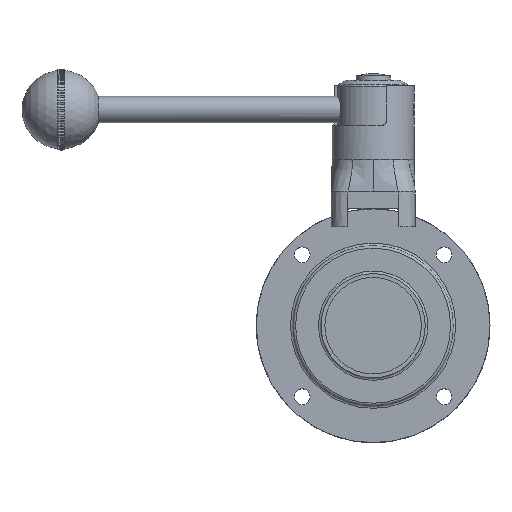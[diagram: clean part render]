
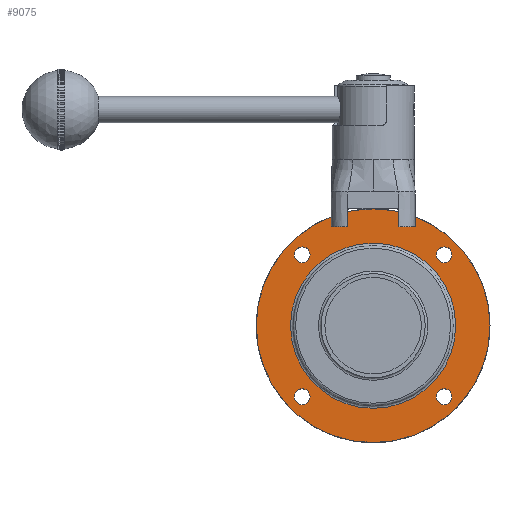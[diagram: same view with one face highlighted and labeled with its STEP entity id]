
A CAD part, top view. The second image highlights one B-rep face of the part: STEP entity #9075.
In plain terms, the highlighted planar face has unit normal (0, 0, 1) as drawn and (1, 0, 0) by its records, which use the part's own axes.
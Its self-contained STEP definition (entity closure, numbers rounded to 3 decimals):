
#833=FACE_BOUND('',#2447,.T.);
#834=FACE_BOUND('',#2448,.T.);
#835=FACE_BOUND('',#2449,.T.);
#836=FACE_BOUND('',#2450,.T.);
#837=FACE_BOUND('',#2451,.T.);
#1184=PLANE('',#10211);
#1829=FACE_OUTER_BOUND('',#2446,.T.);
#2446=EDGE_LOOP('',(#8514));
#2447=EDGE_LOOP('',(#8515));
#2448=EDGE_LOOP('',(#8516));
#2449=EDGE_LOOP('',(#8517));
#2450=EDGE_LOOP('',(#8518));
#2451=EDGE_LOOP('',(#8519));
#3877=CIRCLE('',#10197,3.1);
#3878=CIRCLE('',#10199,3.1);
#3879=CIRCLE('',#10201,3.1);
#3880=CIRCLE('',#10203,3.1);
#3883=CIRCLE('',#10210,46.);
#3884=CIRCLE('',#10212,32.5);
#4720=VERTEX_POINT('',#26206);
#4721=VERTEX_POINT('',#26210);
#4722=VERTEX_POINT('',#26214);
#4723=VERTEX_POINT('',#26218);
#4726=VERTEX_POINT('',#26269);
#4727=VERTEX_POINT('',#26273);
#5978=EDGE_CURVE('',#4720,#4720,#3877,.T.);
#5980=EDGE_CURVE('',#4721,#4721,#3878,.T.);
#5982=EDGE_CURVE('',#4722,#4722,#3879,.T.);
#5984=EDGE_CURVE('',#4723,#4723,#3880,.T.);
#5991=EDGE_CURVE('',#4726,#4726,#3883,.T.);
#5993=EDGE_CURVE('',#4727,#4727,#3884,.T.);
#8514=ORIENTED_EDGE('',*,*,#5991,.T.);
#8515=ORIENTED_EDGE('',*,*,#5978,.T.);
#8516=ORIENTED_EDGE('',*,*,#5980,.T.);
#8517=ORIENTED_EDGE('',*,*,#5982,.T.);
#8518=ORIENTED_EDGE('',*,*,#5984,.T.);
#8519=ORIENTED_EDGE('',*,*,#5993,.F.);
#9075=ADVANCED_FACE('',(#1829,#833,#834,#835,#836,#837),#1184,.T.);
#10197=AXIS2_PLACEMENT_3D('',#26208,#12714,#12715);
#10199=AXIS2_PLACEMENT_3D('',#26212,#12719,#12720);
#10201=AXIS2_PLACEMENT_3D('',#26216,#12724,#12725);
#10203=AXIS2_PLACEMENT_3D('',#26220,#12729,#12730);
#10210=AXIS2_PLACEMENT_3D('',#26270,#12743,#12744);
#10211=AXIS2_PLACEMENT_3D('',#26272,#12746,#12747);
#10212=AXIS2_PLACEMENT_3D('',#26274,#12748,#12749);
#12714=DIRECTION('center_axis',(-1.,0.,0.));
#12715=DIRECTION('ref_axis',(0.,0.,1.));
#12719=DIRECTION('center_axis',(-1.,0.,0.));
#12720=DIRECTION('ref_axis',(0.,0.,1.));
#12724=DIRECTION('center_axis',(-1.,0.,0.));
#12725=DIRECTION('ref_axis',(0.,0.,1.));
#12729=DIRECTION('center_axis',(-1.,0.,0.));
#12730=DIRECTION('ref_axis',(0.,0.,1.));
#12743=DIRECTION('center_axis',(1.,0.,0.));
#12744=DIRECTION('ref_axis',(0.,0.,-1.));
#12746=DIRECTION('center_axis',(1.,0.,0.));
#12747=DIRECTION('ref_axis',(0.,0.,-1.));
#12748=DIRECTION('center_axis',(1.,0.,0.));
#12749=DIRECTION('ref_axis',(0.,0.,-1.));
#26206=CARTESIAN_POINT('',(10.,-27.931,24.831));
#26208=CARTESIAN_POINT('Origin',(10.,-27.931,27.931));
#26210=CARTESIAN_POINT('',(10.,27.931,-31.031));
#26212=CARTESIAN_POINT('Origin',(10.,27.931,-27.931));
#26214=CARTESIAN_POINT('',(10.,-27.931,-31.031));
#26216=CARTESIAN_POINT('Origin',(10.,-27.931,-27.931));
#26218=CARTESIAN_POINT('',(10.,27.931,24.831));
#26220=CARTESIAN_POINT('Origin',(10.,27.931,27.931));
#26269=CARTESIAN_POINT('',(10.,-46.,0.));
#26270=CARTESIAN_POINT('Origin',(10.,0.,0.));
#26272=CARTESIAN_POINT('Origin',(10.,32.5,0.));
#26273=CARTESIAN_POINT('',(10.,0.,32.5));
#26274=CARTESIAN_POINT('Origin',(10.,0.,0.));
